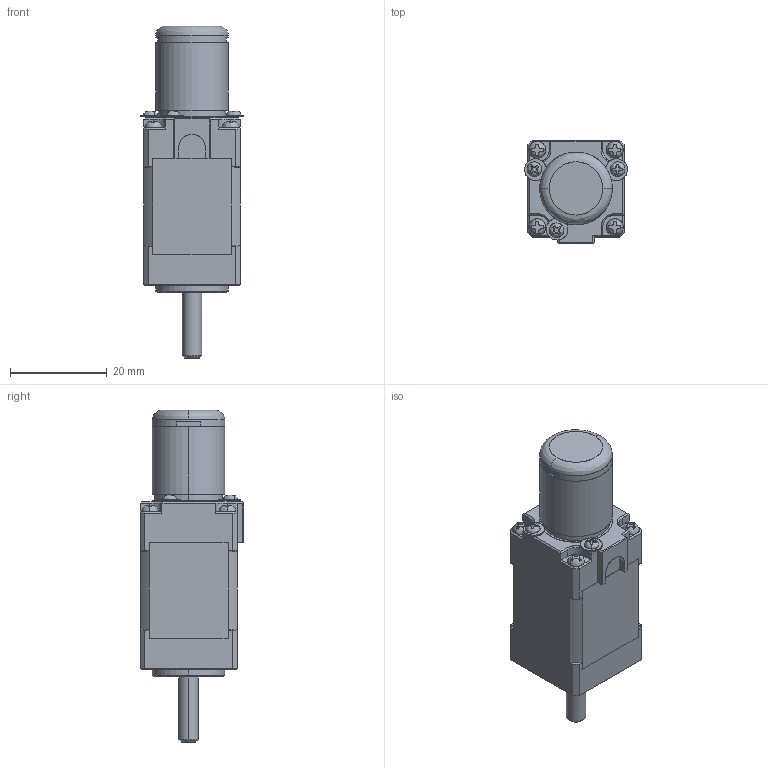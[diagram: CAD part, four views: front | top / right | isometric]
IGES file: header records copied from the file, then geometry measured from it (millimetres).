
Start section: SolidWorks IGES file using analytic representation for surfaces
Global section: file name: C:\Users\render\Documents\CAD Files\TamagawaMotors\TBL-V-Series\TS4735\TS4735.IGS; native system: SolidWorks 2009; preprocessor: SolidWorks 2009; author: render; date: 100721.142047; units: millimetre
Bounding box: 21.27 x 21.4 x 68.6 mm (x, y, z)
Surface area: 7651.9 mm2 (no closed solid volume)
Topology: 0 solids, 0 shells, 360 faces, 3599 edges, 3599 vertices
Faces by surface type: bspline 237, revolution 123
